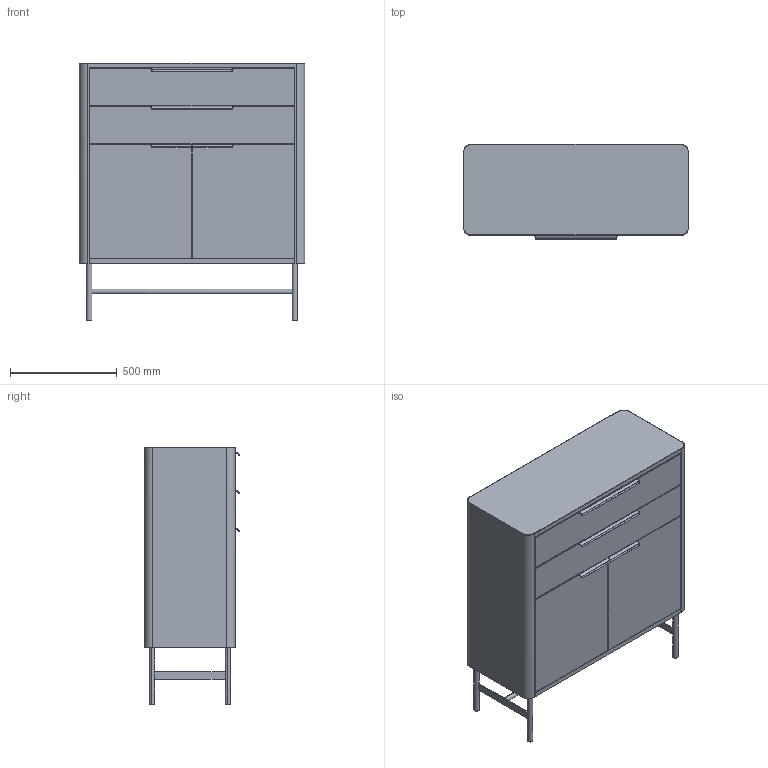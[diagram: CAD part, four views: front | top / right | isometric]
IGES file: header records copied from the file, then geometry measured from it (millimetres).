
Start section: Comment
Global section: file name: ZB-SB-1057-H5 - V02 - Schublade - Füße.igs; native system:  By UGS Corp.; preprocessor: XPlus GENERIC/IGES 3.0; author: Author; organization: Title; date: 20210906.144714; units: inch
Bounding box: 1057 x 445.33 x 1208.5 mm (x, y, z)
Surface area: 4327997.7 mm2 (no closed solid volume)
Topology: 0 solids, 0 shells, 185 faces, 924 edges, 924 vertices
Faces by surface type: bspline 185
